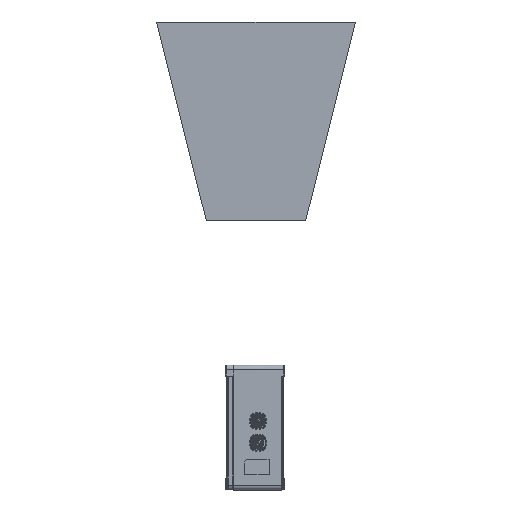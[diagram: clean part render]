
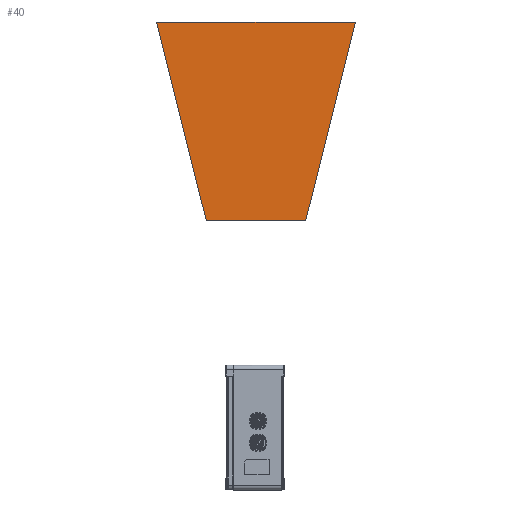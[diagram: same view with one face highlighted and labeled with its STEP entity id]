
A CAD part, left-side view. The second image highlights one B-rep face of the part: STEP entity #40.
In plain terms, the highlighted planar face has unit normal (-1, 0, 0).
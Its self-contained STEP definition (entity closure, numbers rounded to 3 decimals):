
#1=DIRECTION('',(0.,1.,0.));
#2=VECTOR('',#1,100.);
#3=CARTESIAN_POINT('',(-331.575,-50.25,207.5));
#4=LINE('',#3,#2);
#5=DIRECTION('',(0.,0.243,0.97));
#6=VECTOR('',#5,206.155);
#7=CARTESIAN_POINT('',(-331.575,49.75,207.5));
#8=LINE('',#7,#6);
#9=DIRECTION('',(0.,-1.,0.));
#10=VECTOR('',#9,200.);
#11=CARTESIAN_POINT('',(-331.575,99.75,407.5));
#12=LINE('',#11,#10);
#13=DIRECTION('',(0.,0.243,-0.97));
#14=VECTOR('',#13,206.155);
#15=CARTESIAN_POINT('',(-331.575,-100.25,407.5));
#16=LINE('',#15,#14);
#17=CARTESIAN_POINT('',(-331.575,49.75,207.5));
#18=CARTESIAN_POINT('',(-331.575,-50.25,207.5));
#19=VERTEX_POINT('',#17);
#20=VERTEX_POINT('',#18);
#21=CARTESIAN_POINT('',(-331.575,-100.25,407.5));
#22=VERTEX_POINT('',#21);
#23=CARTESIAN_POINT('',(-331.575,99.75,407.5));
#24=VERTEX_POINT('',#23);
#25=CARTESIAN_POINT('',(-331.575,0.,0.));
#26=DIRECTION('',(-1.,0.,0.));
#27=DIRECTION('',(0.,0.,1.));
#28=AXIS2_PLACEMENT_3D('',#25,#26,#27);
#29=PLANE('',#28);
#31=ORIENTED_EDGE('',*,*,#30,.T.);
#33=ORIENTED_EDGE('',*,*,#32,.T.);
#35=ORIENTED_EDGE('',*,*,#34,.T.);
#37=ORIENTED_EDGE('',*,*,#36,.T.);
#38=EDGE_LOOP('',(#31,#33,#35,#37));
#39=FACE_OUTER_BOUND('',#38,.F.);
#40=ADVANCED_FACE('',(#39),#29,.T.);
#30=EDGE_CURVE('',#20,#19,#4,.T.);
#32=EDGE_CURVE('',#19,#24,#8,.T.);
#34=EDGE_CURVE('',#24,#22,#12,.T.);
#36=EDGE_CURVE('',#22,#20,#16,.T.);
